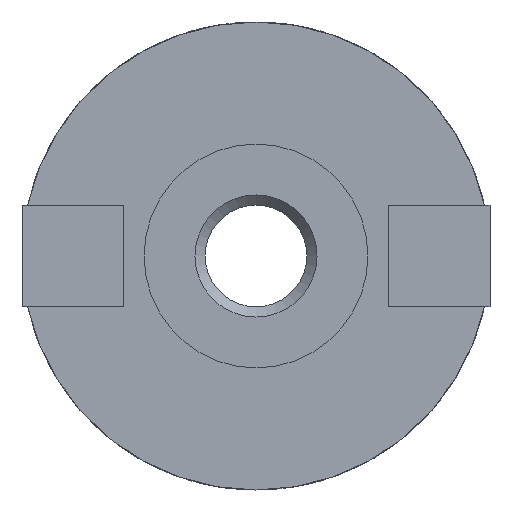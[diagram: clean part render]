
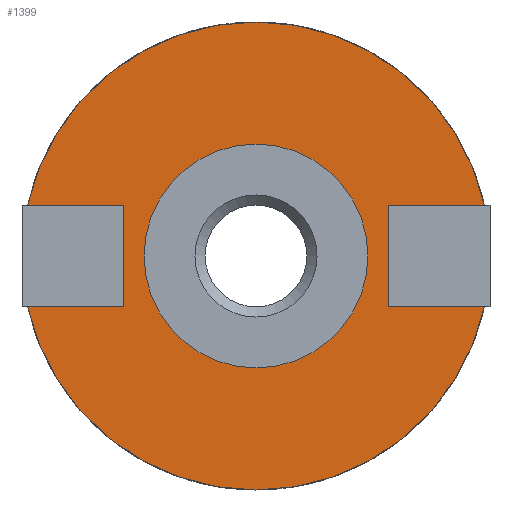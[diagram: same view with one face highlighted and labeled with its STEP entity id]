
A CAD part, front view. The second image highlights one B-rep face of the part: STEP entity #1399.
In plain terms, the highlighted planar face has unit normal (0, -1, 0).
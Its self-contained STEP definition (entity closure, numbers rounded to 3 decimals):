
#53=FACE_BOUND('',#231,.T.);
#78=PLANE('',#1513);
#151=FACE_OUTER_BOUND('',#230,.T.);
#230=EDGE_LOOP('',(#1007,#1008,#1009,#1010,#1011,#1012,#1013,#1014));
#231=EDGE_LOOP('',(#1015,#1016));
#317=LINE('',#2106,#435);
#320=LINE('',#2137,#438);
#322=LINE('',#2140,#440);
#323=LINE('',#2145,#441);
#324=LINE('',#2147,#442);
#325=LINE('',#2149,#443);
#435=VECTOR('',#1686,10.);
#438=VECTOR('',#1695,10.);
#440=VECTOR('',#1699,10.);
#441=VECTOR('',#1704,10.);
#442=VECTOR('',#1705,10.);
#443=VECTOR('',#1706,10.);
#559=CIRCLE('',#1514,23.);
#560=CIRCLE('',#1515,23.);
#561=CIRCLE('',#1516,10.75);
#562=CIRCLE('',#1517,10.75);
#631=VERTEX_POINT('',#2100);
#633=VERTEX_POINT('',#2104);
#637=VERTEX_POINT('',#2134);
#638=VERTEX_POINT('',#2136);
#639=VERTEX_POINT('',#2142);
#640=VERTEX_POINT('',#2144);
#641=VERTEX_POINT('',#2146);
#642=VERTEX_POINT('',#2148);
#643=VERTEX_POINT('',#2151);
#644=VERTEX_POINT('',#2152);
#778=EDGE_CURVE('',#631,#633,#317,.T.);
#784=EDGE_CURVE('',#638,#637,#320,.T.);
#786=EDGE_CURVE('',#633,#638,#322,.T.);
#787=EDGE_CURVE('',#637,#639,#559,.T.);
#788=EDGE_CURVE('',#639,#640,#323,.T.);
#789=EDGE_CURVE('',#640,#641,#324,.T.);
#790=EDGE_CURVE('',#641,#642,#325,.T.);
#791=EDGE_CURVE('',#642,#631,#560,.T.);
#792=EDGE_CURVE('',#643,#644,#561,.T.);
#793=EDGE_CURVE('',#644,#643,#562,.T.);
#1007=ORIENTED_EDGE('',*,*,#778,.T.);
#1008=ORIENTED_EDGE('',*,*,#786,.T.);
#1009=ORIENTED_EDGE('',*,*,#784,.T.);
#1010=ORIENTED_EDGE('',*,*,#787,.T.);
#1011=ORIENTED_EDGE('',*,*,#788,.T.);
#1012=ORIENTED_EDGE('',*,*,#789,.T.);
#1013=ORIENTED_EDGE('',*,*,#790,.T.);
#1014=ORIENTED_EDGE('',*,*,#791,.T.);
#1015=ORIENTED_EDGE('',*,*,#792,.F.);
#1016=ORIENTED_EDGE('',*,*,#793,.F.);
#1399=ADVANCED_FACE('',(#151,#53),#78,.T.);
#1513=AXIS2_PLACEMENT_3D('',#2141,#1700,#1701);
#1514=AXIS2_PLACEMENT_3D('',#2143,#1702,#1703);
#1515=AXIS2_PLACEMENT_3D('',#2150,#1707,#1708);
#1516=AXIS2_PLACEMENT_3D('',#2153,#1709,#1710);
#1517=AXIS2_PLACEMENT_3D('',#2154,#1711,#1712);
#1686=DIRECTION('',(1.,0.,0.));
#1695=DIRECTION('',(-1.,0.,0.));
#1699=DIRECTION('',(0.,0.,-1.));
#1700=DIRECTION('center_axis',(0.,-1.,0.));
#1701=DIRECTION('ref_axis',(0.,0.,-1.));
#1702=DIRECTION('center_axis',(0.,-1.,0.));
#1703=DIRECTION('ref_axis',(1.,0.,0.));
#1704=DIRECTION('',(-1.,0.,0.));
#1705=DIRECTION('',(0.,0.,1.));
#1706=DIRECTION('',(1.,0.,0.));
#1707=DIRECTION('center_axis',(0.,-1.,0.));
#1708=DIRECTION('ref_axis',(1.,0.,0.));
#1709=DIRECTION('center_axis',(0.,-1.,0.));
#1710=DIRECTION('ref_axis',(1.,0.,0.));
#1711=DIRECTION('center_axis',(0.,-1.,0.));
#1712=DIRECTION('ref_axis',(1.,0.,0.));
#2100=CARTESIAN_POINT('',(-22.45,-55.044,5.));
#2104=CARTESIAN_POINT('',(-13.,-55.044,5.));
#2106=CARTESIAN_POINT('',(-1.125,-55.044,5.));
#2134=CARTESIAN_POINT('',(-22.45,-55.044,-5.));
#2136=CARTESIAN_POINT('',(-13.,-55.044,-5.));
#2137=CARTESIAN_POINT('',(-1.125,-55.044,-5.));
#2140=CARTESIAN_POINT('',(-13.,-55.044,0.));
#2141=CARTESIAN_POINT('Origin',(10.75,-55.044,0.));
#2142=CARTESIAN_POINT('',(22.45,-55.044,-5.));
#2143=CARTESIAN_POINT('Origin',(0.,-55.044,0.));
#2144=CARTESIAN_POINT('',(13.,-55.044,-5.));
#2145=CARTESIAN_POINT('',(11.875,-55.044,-5.));
#2146=CARTESIAN_POINT('',(13.,-55.044,5.));
#2147=CARTESIAN_POINT('',(13.,-55.044,0.));
#2148=CARTESIAN_POINT('',(22.45,-55.044,5.));
#2149=CARTESIAN_POINT('',(11.875,-55.044,5.));
#2150=CARTESIAN_POINT('Origin',(0.,-55.044,0.));
#2151=CARTESIAN_POINT('',(10.75,-55.044,0.));
#2152=CARTESIAN_POINT('',(-10.75,-55.044,0.));
#2153=CARTESIAN_POINT('Origin',(0.,-55.044,0.));
#2154=CARTESIAN_POINT('Origin',(0.,-55.044,0.));
